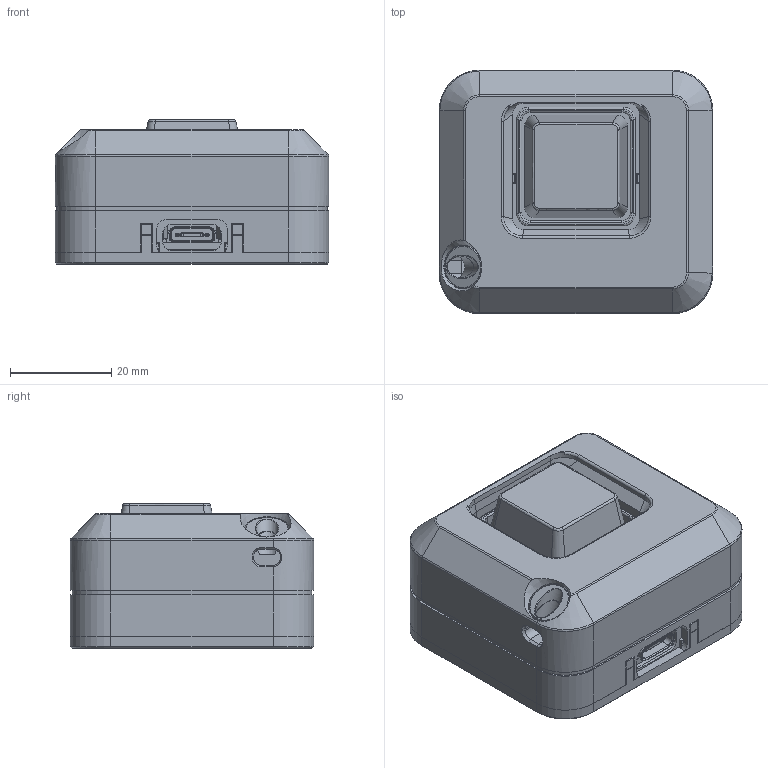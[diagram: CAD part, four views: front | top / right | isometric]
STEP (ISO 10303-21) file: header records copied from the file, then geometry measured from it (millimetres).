
FILE_DESCRIPTION(('Open CASCADE Model'),'2;1');
FILE_NAME('Open CASCADE Shape Model','2026-10-07T16:08:45',('Author'),( 'Open CASCADE'),'Open CASCADE STEP processor 7.9','Open CASCADE 7.9' ,'Unknown');
FILE_SCHEMA(('AUTOMOTIVE_DESIGN { 1 0 10303 214 1 1 1 1 }'));
Length unit declared in the file: millimetre
Products named in the file (13): AirGap_Paste_Pocket_Recess; 01_shell; 02_base; 03_keycap; 04_halo; 09_eye_bushing; 05_mx_plate; 07_xiao_wedge; 06_lightguide_left; 06_lightguide_right; XIAO_official_reference; Flat_FPC_antenna_envelope; MX_dimensional_envelope
Assembly tree (12 placements, depth 2):
  AirGap_Paste_Pocket_Recess
    01_shell
    02_base
    03_keycap
    04_halo
    09_eye_bushing
    05_mx_plate
    07_xiao_wedge
    06_lightguide_left
    06_lightguide_right
    XIAO_official_reference
    Flat_FPC_antenna_envelope
    MX_dimensional_envelope
Bounding box: 54 x 48 x 28.6 mm (x, y, z)
Volume: 35351.6 mm3; surface area: 35108.4 mm2
Topology: 49 solids, 54 shells, 1803 faces, 4710 edges, 3053 vertices
Faces by surface type: plane 1211, cylinder 319, bspline 110, extrusion 100, torus 29, cone 28, sphere 6
Full cylindrical faces by diameter (mm): 0.5 x3, 0.6 x2, 0.75 x14, 1.524 x8, 1.72 x1, 1.86 x1, 2 x2, 3.4 x6, 4.4 x2, 5.3 x1, 8.4 x1, 8.7 x1
Entity records: 121105 total; most frequent: CARTESIAN_POINT 29445, DIRECTION 15642, VECTOR 10603, LINE 10503, ORIENTED_EDGE 9404, PCURVE 9404, DEFINITIONAL_REPRESENTATION 9404, EDGE_CURVE 4702
